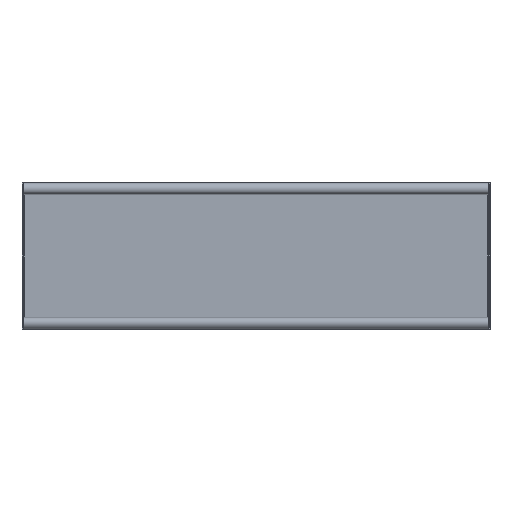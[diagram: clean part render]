
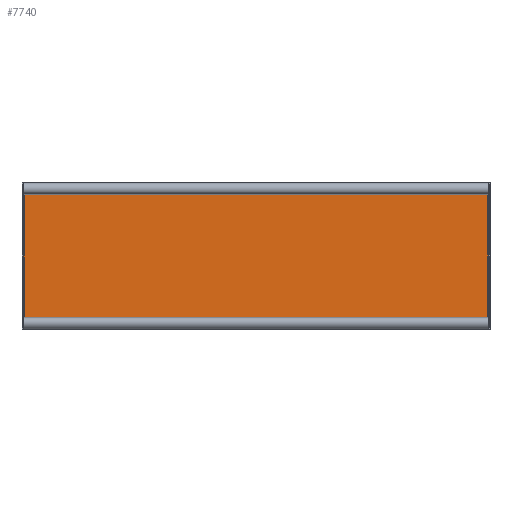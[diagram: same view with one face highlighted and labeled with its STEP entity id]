
A CAD part, front view. The second image highlights one B-rep face of the part: STEP entity #7740.
In plain terms, the highlighted planar face has unit normal (0, -1, 0).
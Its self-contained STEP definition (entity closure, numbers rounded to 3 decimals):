
#106 = VERTEX_POINT ( 'NONE', #6021 ) ;
#130 = EDGE_CURVE ( 'NONE', #5370, #106, #9060, .T. ) ;
#180 = CARTESIAN_POINT ( 'NONE',  ( 395., -2., -121. ) ) ;
#198 = ORIENTED_EDGE ( 'NONE', *, *, #291, .T. ) ;
#291 = EDGE_CURVE ( 'NONE', #5101, #3268, #2481, .T. ) ;
#332 = CIRCLE ( 'NONE', #6597, 5. ) ;
#343 = CIRCLE ( 'NONE', #9496, 5. ) ;
#364 = LINE ( 'NONE', #3423, #5639 ) ;
#674 = DIRECTION ( 'NONE',  ( 0., -1., 0. ) ) ;
#702 = CARTESIAN_POINT ( 'NONE',  ( -396., -2., -124. ) ) ;
#1132 = DIRECTION ( 'NONE',  ( 0., -1., 0. ) ) ;
#1471 = LINE ( 'NONE', #6961, #6915 ) ;
#2089 = CIRCLE ( 'NONE', #3323, 5. ) ;
#2103 = EDGE_CURVE ( 'NONE', #106, #3785, #2089, .T. ) ;
#2481 = LINE ( 'NONE', #7731, #3133 ) ;
#3133 = VECTOR ( 'NONE', #5519, 1000. ) ;
#3190 = CARTESIAN_POINT ( 'NONE',  ( -395., -2., 121. ) ) ;
#3203 = CARTESIAN_POINT ( 'NONE',  ( 399., -2., -124. ) ) ;
#3254 = DIRECTION ( 'NONE',  ( 0., -1., 0. ) ) ;
#3259 = ORIENTED_EDGE ( 'NONE', *, *, #2103, .F. ) ;
#3268 = VERTEX_POINT ( 'NONE', #8658 ) ;
#3323 = AXIS2_PLACEMENT_3D ( 'NONE', #9918, #9206, #8684 ) ;
#3423 = CARTESIAN_POINT ( 'NONE',  ( -399., -2., -121. ) ) ;
#3443 = VERTEX_POINT ( 'NONE', #6473 ) ;
#3785 = VERTEX_POINT ( 'NONE', #3190 ) ;
#3809 = FACE_OUTER_BOUND ( 'NONE', #9393, .T. ) ;
#4972 = DIRECTION ( 'NONE',  ( 1., 0., 0. ) ) ;
#5101 = VERTEX_POINT ( 'NONE', #9672 ) ;
#5102 = ORIENTED_EDGE ( 'NONE', *, *, #9107, .F. ) ;
#5370 = VERTEX_POINT ( 'NONE', #6086 ) ;
#5378 = CARTESIAN_POINT ( 'NONE',  ( -399., -2., -124. ) ) ;
#5519 = DIRECTION ( 'NONE',  ( 0., 0., 1. ) ) ;
#5639 = VECTOR ( 'NONE', #4972, 1000. ) ;
#5825 = VERTEX_POINT ( 'NONE', #8335 ) ;
#5886 = VERTEX_POINT ( 'NONE', #180 ) ;
#6021 = CARTESIAN_POINT ( 'NONE',  ( -396., -2., 120. ) ) ;
#6086 = CARTESIAN_POINT ( 'NONE',  ( -396., -2., -120. ) ) ;
#6408 = DIRECTION ( 'NONE',  ( 0., 0., 1. ) ) ;
#6473 = CARTESIAN_POINT ( 'NONE',  ( -395., -2., -121. ) ) ;
#6520 = ORIENTED_EDGE ( 'NONE', *, *, #6677, .F. ) ;
#6593 = CIRCLE ( 'NONE', #9787, 5. ) ;
#6597 = AXIS2_PLACEMENT_3D ( 'NONE', #3203, #3254, #6408 ) ;
#6677 = EDGE_CURVE ( 'NONE', #3443, #5370, #343, .T. ) ;
#6736 = DIRECTION ( 'NONE',  ( 0., 0., 1. ) ) ;
#6774 = ORIENTED_EDGE ( 'NONE', *, *, #8646, .F. ) ;
#6857 = EDGE_CURVE ( 'NONE', #3443, #5886, #364, .T. ) ;
#6915 = VECTOR ( 'NONE', #9922, 1000. ) ;
#6923 = DIRECTION ( 'NONE',  ( 0., 1., 0. ) ) ;
#6961 = CARTESIAN_POINT ( 'NONE',  ( -399., -2., 121. ) ) ;
#7566 = CARTESIAN_POINT ( 'NONE',  ( -399., -2., -124. ) ) ;
#7605 = PLANE ( 'NONE',  #9178 ) ;
#7731 = CARTESIAN_POINT ( 'NONE',  ( 396., -2., -124. ) ) ;
#7740 = ADVANCED_FACE ( 'NONE', ( #3809 ), #7605, .F. ) ;
#7784 = CARTESIAN_POINT ( 'NONE',  ( 399., -2., 124. ) ) ;
#7815 = ORIENTED_EDGE ( 'NONE', *, *, #6857, .T. ) ;
#8278 = DIRECTION ( 'NONE',  ( 0., 0., 1. ) ) ;
#8303 = DIRECTION ( 'NONE',  ( 0., 0., 1. ) ) ;
#8335 = CARTESIAN_POINT ( 'NONE',  ( 395., -2., 121. ) ) ;
#8646 = EDGE_CURVE ( 'NONE', #5825, #3268, #6593, .T. ) ;
#8658 = CARTESIAN_POINT ( 'NONE',  ( 396., -2., 120. ) ) ;
#8684 = DIRECTION ( 'NONE',  ( 0., 0., 1. ) ) ;
#8995 = ORIENTED_EDGE ( 'NONE', *, *, #9272, .F. ) ;
#9060 = LINE ( 'NONE', #702, #9691 ) ;
#9107 = EDGE_CURVE ( 'NONE', #3785, #5825, #1471, .T. ) ;
#9157 = ORIENTED_EDGE ( 'NONE', *, *, #130, .F. ) ;
#9178 = AXIS2_PLACEMENT_3D ( 'NONE', #5378, #6923, #6736 ) ;
#9206 = DIRECTION ( 'NONE',  ( 0., -1., 0. ) ) ;
#9254 = DIRECTION ( 'NONE',  ( 0., 0., 1. ) ) ;
#9272 = EDGE_CURVE ( 'NONE', #5101, #5886, #332, .T. ) ;
#9393 = EDGE_LOOP ( 'NONE', ( #8995, #198, #6774, #5102, #3259, #9157, #6520, #7815 ) ) ;
#9496 = AXIS2_PLACEMENT_3D ( 'NONE', #7566, #674, #8278 ) ;
#9672 = CARTESIAN_POINT ( 'NONE',  ( 396., -2., -120. ) ) ;
#9691 = VECTOR ( 'NONE', #8303, 1000. ) ;
#9787 = AXIS2_PLACEMENT_3D ( 'NONE', #7784, #1132, #9254 ) ;
#9918 = CARTESIAN_POINT ( 'NONE',  ( -399., -2., 124. ) ) ;
#9922 = DIRECTION ( 'NONE',  ( 1., 0., 0. ) ) ;
